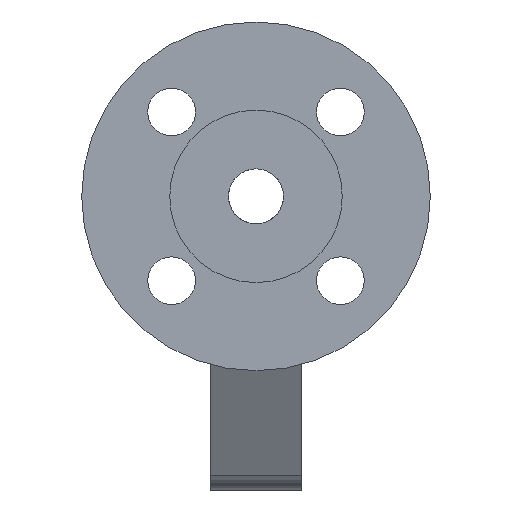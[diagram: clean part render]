
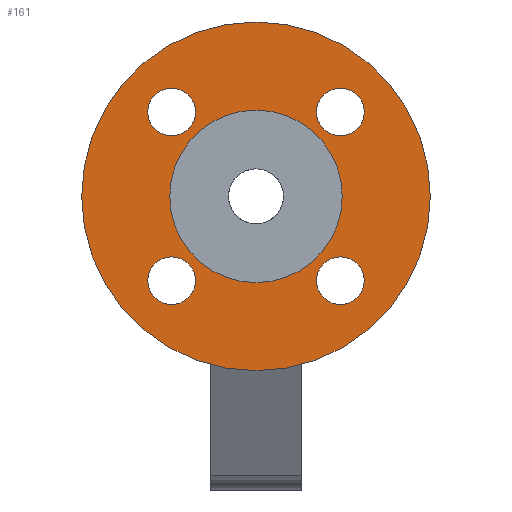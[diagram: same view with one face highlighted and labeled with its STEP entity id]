
A CAD part, left-side view. The second image highlights one B-rep face of the part: STEP entity #161.
In plain terms, the highlighted planar face has unit normal (-1, 0, 0).
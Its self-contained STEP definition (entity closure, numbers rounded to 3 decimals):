
#161=ADVANCED_FACE('',(#1276,#1278,#1280,#1282,#1284,#1286),#1288,.T.);
#1276=FACE_BOUND('',#1277,.T.);
#1277=EDGE_LOOP('',(#2110));
#1278=FACE_BOUND('',#1279,.T.);
#1279=EDGE_LOOP('',(#2111));
#1280=FACE_BOUND('',#1281,.T.);
#1281=EDGE_LOOP('',(#2112));
#1282=FACE_BOUND('',#1283,.T.);
#1283=EDGE_LOOP('',(#2113));
#1284=FACE_BOUND('',#1285,.T.);
#1285=EDGE_LOOP('',(#2114));
#1286=FACE_OUTER_BOUND('',#1287,.T.);
#1287=EDGE_LOOP('',(#2115));
#1288=PLANE('',#1289);
#1289=AXIS2_PLACEMENT_3D('',#1290,#1291,#1292);
#1290=CARTESIAN_POINT('',(-51.051,0.,0.));
#1291=DIRECTION('',(-1.,0.,0.));
#1292=DIRECTION('',(0.,1.,0.));
#2110=ORIENTED_EDGE('',*,*,#3027,.T.);
#2111=ORIENTED_EDGE('',*,*,#3025,.T.);
#2112=ORIENTED_EDGE('',*,*,#3023,.T.);
#2113=ORIENTED_EDGE('',*,*,#3020,.T.);
#2114=ORIENTED_EDGE('',*,*,#3015,.T.);
#2115=ORIENTED_EDGE('',*,*,#3019,.F.);
#3015=EDGE_CURVE('',#3348,#3348,#3349,.T.);
#3019=EDGE_CURVE('',#3353,#3353,#3355,.T.);
#3020=EDGE_CURVE('',#3356,#3356,#3357,.F.);
#3023=EDGE_CURVE('',#3359,#3359,#3361,.F.);
#3025=EDGE_CURVE('',#3362,#3362,#3364,.F.);
#3027=EDGE_CURVE('',#3365,#3365,#3367,.F.);
#3348=VERTEX_POINT('',#4428);
#3349=CIRCLE('',#4429,23.5);
#3353=VERTEX_POINT('',#4441);
#3355=CIRCLE('',#4445,47.5);
#3356=VERTEX_POINT('',#4449);
#3357=CIRCLE('',#4450,6.5);
#3359=VERTEX_POINT('',#4457);
#3361=CIRCLE('',#4461,6.5);
#3362=VERTEX_POINT('',#4465);
#3364=CIRCLE('',#4469,6.5);
#3365=VERTEX_POINT('',#4473);
#3367=CIRCLE('',#4477,6.5);
#4428=CARTESIAN_POINT('',(-51.051,23.5,0.));
#4429=AXIS2_PLACEMENT_3D('',#4430,#4431,#4432);
#4430=CARTESIAN_POINT('',(-51.051,0.,0.));
#4431=DIRECTION('',(1.,0.,0.));
#4432=DIRECTION('',(0.,1.,0.));
#4441=CARTESIAN_POINT('',(-51.051,47.5,0.));
#4445=AXIS2_PLACEMENT_3D('',#4446,#4447,#4448);
#4446=CARTESIAN_POINT('',(-51.051,0.,0.));
#4447=DIRECTION('',(1.,0.,0.));
#4448=DIRECTION('',(0.,1.,0.));
#4449=CARTESIAN_POINT('',(-51.051,-22.981,-29.481));
#4450=AXIS2_PLACEMENT_3D('',#4451,#4452,#4453);
#4451=CARTESIAN_POINT('',(-51.051,-22.981,-22.981));
#4452=DIRECTION('',(-1.,0.,0.));
#4453=DIRECTION('',(0.,0.,-1.));
#4457=CARTESIAN_POINT('',(-51.051,-29.481,22.981));
#4461=AXIS2_PLACEMENT_3D('',#4462,#4463,#4464);
#4462=CARTESIAN_POINT('',(-51.051,-22.981,22.981));
#4463=DIRECTION('',(-1.,0.,0.));
#4464=DIRECTION('',(0.,-1.,0.));
#4465=CARTESIAN_POINT('',(-51.051,22.981,29.481));
#4469=AXIS2_PLACEMENT_3D('',#4470,#4471,#4472);
#4470=CARTESIAN_POINT('',(-51.051,22.981,22.981));
#4471=DIRECTION('',(-1.,0.,0.));
#4472=DIRECTION('',(0.,0.,1.));
#4473=CARTESIAN_POINT('',(-51.051,29.481,-22.981));
#4477=AXIS2_PLACEMENT_3D('',#4478,#4479,#4480);
#4478=CARTESIAN_POINT('',(-51.051,22.981,-22.981));
#4479=DIRECTION('',(-1.,0.,0.));
#4480=DIRECTION('',(0.,1.,0.));
